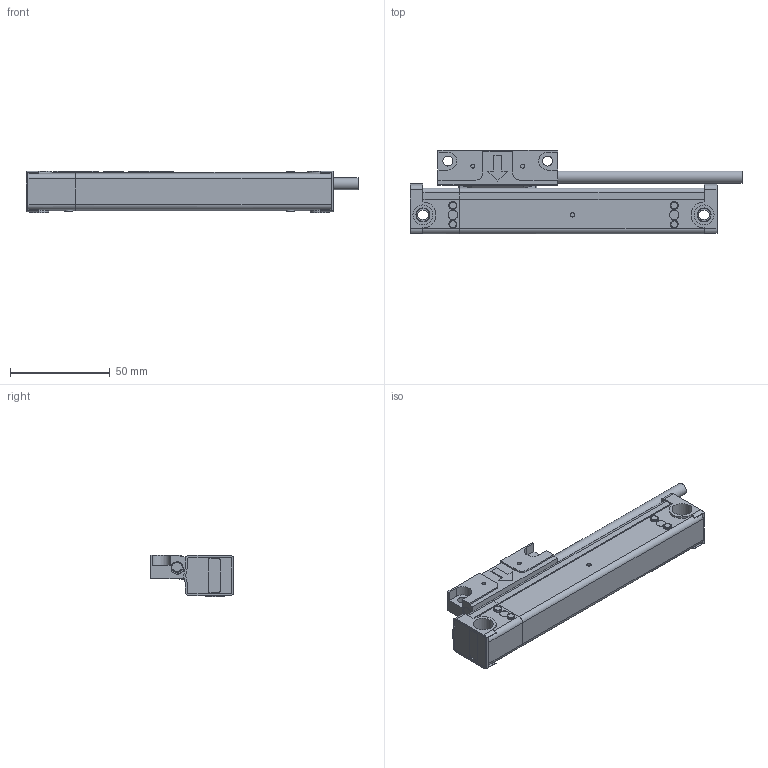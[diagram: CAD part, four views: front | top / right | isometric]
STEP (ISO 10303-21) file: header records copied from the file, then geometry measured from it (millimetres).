
FILE_DESCRIPTION( ( 'STEP AP203' ), '1' );
FILE_NAME( 'N:/Engineering/CAD_Solid/Magnescale/GBER/GB-005ER_SR138-005R.stp', '2013-03-14T10:09:06', ( ' ' ), ( ' ' ), 'XStep 1.0', ' ', ' ' );
FILE_SCHEMA( ( 'CONFIG_CONTROL_DESIGN) ( )' ) );
Length unit declared in the file: metre
Products named in the file (1): 1
Bounding box: 166.5 x 42 x 21 mm (x, y, z)
Surface area: 23981.6 mm2 (no closed solid volume)
Topology: 0 solids, 310 shells, 310 faces, 1717 edges, 1677 vertices
Faces by surface type: plane 199, cylinder 88, torus 12, cone 10, extrusion 1
Full cylindrical faces by diameter (mm): 2.013 x2, 2.113 x1, 3.242 x2, 4 x8, 4.8 x2, 5 x2, 5.2 x2, 5.8 x2, 6 x1, 9.8 x2, 10 x2
Entity records: 16537 total; most frequent: CARTESIAN_POINT 3681, DIRECTION 2767, ORIENTED_EDGE 1665, EDGE_CURVE 1665, VERTEX_POINT 1665, VECTOR 1177, LINE 1176, AXIS2_PLACEMENT_3D 795
